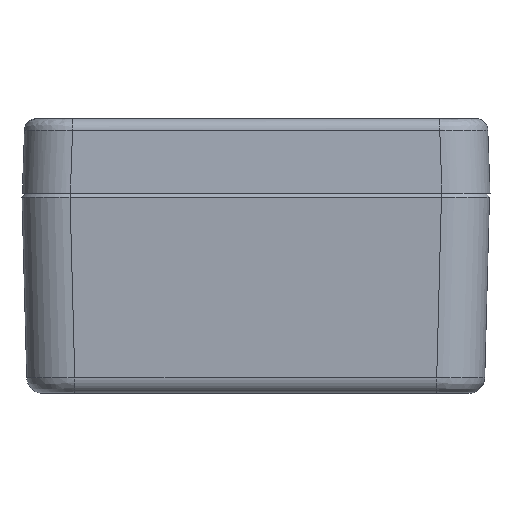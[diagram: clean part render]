
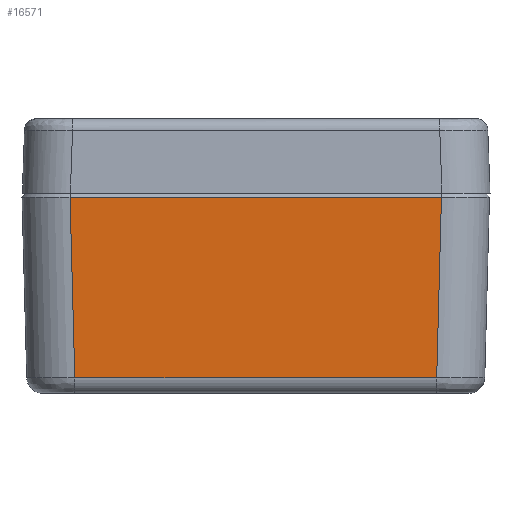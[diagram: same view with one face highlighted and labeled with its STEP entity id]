
A CAD part, left-side view. The second image highlights one B-rep face of the part: STEP entity #16571.
In plain terms, the highlighted planar face has unit normal (-1, 0, -0.026).
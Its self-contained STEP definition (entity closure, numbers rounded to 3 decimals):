
#300 = CARTESIAN_POINT ( 'NONE',  ( -5.854, 0.125, -12.5 ) ) ;
#2564 = DIRECTION ( 'NONE',  ( -0.026, 0.026, 0.999 ) ) ;
#2740 = CARTESIAN_POINT ( 'NONE',  ( -5.854, 45.866, -12.5 ) ) ;
#9058 = CARTESIAN_POINT ( 'NONE',  ( -6.168, 46.18, -0.5 ) ) ;
#10274 = VERTEX_POINT ( 'NONE', #17875 ) ;
#10431 = LINE ( 'NONE', #300, #31088 ) ;
#10538 = EDGE_CURVE ( 'NONE', #34776, #39799, #10431, .T. ) ;
#10847 = CARTESIAN_POINT ( 'NONE',  ( -5.578, 22.922, -23.052 ) ) ;
#12017 = DIRECTION ( 'NONE',  ( 0., -1., 0. ) ) ;
#12204 = FACE_OUTER_BOUND ( 'NONE', #14035, .T. ) ;
#14035 = EDGE_LOOP ( 'NONE', ( #26196, #42268, #35610, #38243 ) ) ;
#15983 = CARTESIAN_POINT ( 'NONE',  ( -6.168, 22.996, -0.5 ) ) ;
#16571 = ADVANCED_FACE ( 'NONE', ( #12204 ), #41579, .F. ) ;
#16616 = DIRECTION ( 'NONE',  ( -0.026, 0., 1. ) ) ;
#16933 = DIRECTION ( 'NONE',  ( 0.026, 0.026, -0.999 ) ) ;
#17875 = CARTESIAN_POINT ( 'NONE',  ( -5.578, 45.59, -23.052 ) ) ;
#20124 = VERTEX_POINT ( 'NONE', #9058 ) ;
#20159 = VECTOR ( 'NONE', #2564, 1000. ) ;
#25789 = VECTOR ( 'NONE', #48232, 1000. ) ;
#26196 = ORIENTED_EDGE ( 'NONE', *, *, #26494, .F. ) ;
#26494 = EDGE_CURVE ( 'NONE', #10274, #20124, #37002, .T. ) ;
#28999 = LINE ( 'NONE', #10847, #25789 ) ;
#31088 = VECTOR ( 'NONE', #16933, 1000. ) ;
#33477 = VECTOR ( 'NONE', #12017, 1000. ) ;
#34776 = VERTEX_POINT ( 'NONE', #40479 ) ;
#35419 = AXIS2_PLACEMENT_3D ( 'NONE', #45185, #41396, #16616 ) ;
#35610 = ORIENTED_EDGE ( 'NONE', *, *, #10538, .F. ) ;
#36069 = LINE ( 'NONE', #15983, #33477 ) ;
#37002 = LINE ( 'NONE', #2740, #20159 ) ;
#38243 = ORIENTED_EDGE ( 'NONE', *, *, #50202, .F. ) ;
#39799 = VERTEX_POINT ( 'NONE', #44335 ) ;
#40479 = CARTESIAN_POINT ( 'NONE',  ( -6.168, -0.189, -0.5 ) ) ;
#41396 = DIRECTION ( 'NONE',  ( 1., 0., 0.026 ) ) ;
#41579 = PLANE ( 'NONE',  #35419 ) ;
#42268 = ORIENTED_EDGE ( 'NONE', *, *, #48341, .F. ) ;
#44335 = CARTESIAN_POINT ( 'NONE',  ( -5.578, 0.401, -23.052 ) ) ;
#45185 = CARTESIAN_POINT ( 'NONE',  ( -5.578, 46.18, -23.052 ) ) ;
#48232 = DIRECTION ( 'NONE',  ( 0., 1., 0. ) ) ;
#48341 = EDGE_CURVE ( 'NONE', #39799, #10274, #28999, .T. ) ;
#50202 = EDGE_CURVE ( 'NONE', #20124, #34776, #36069, .T. ) ;
